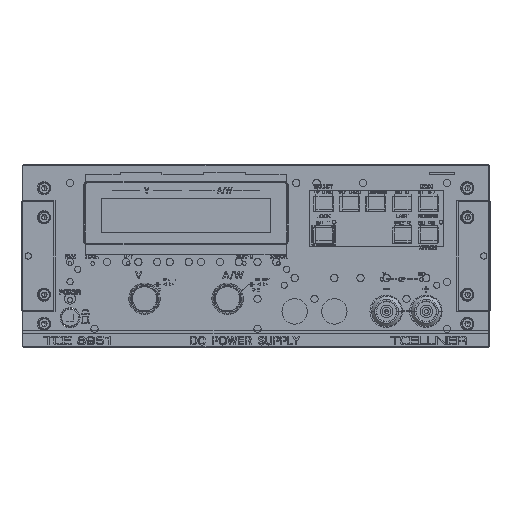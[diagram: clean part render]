
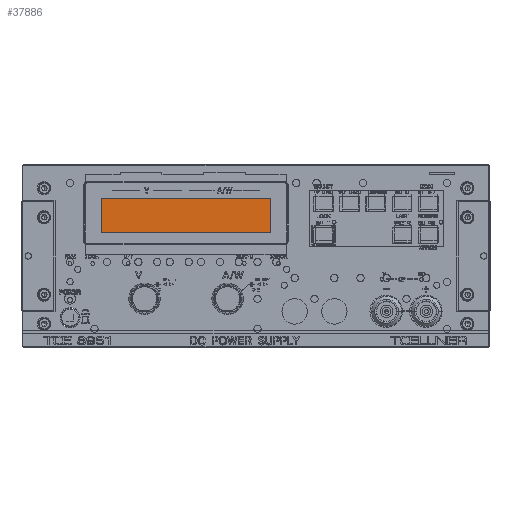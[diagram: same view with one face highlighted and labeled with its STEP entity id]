
A CAD part, top view. The second image highlights one B-rep face of the part: STEP entity #37886.
In plain terms, the highlighted planar face has unit normal (0, 0, 1).
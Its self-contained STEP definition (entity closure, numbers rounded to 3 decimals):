
#946 = VERTEX_POINT ( 'NONE', #55966 ) ;
#3045 = AXIS2_PLACEMENT_3D ( 'NONE', #20883, #68675, #28923 ) ;
#7830 = CARTESIAN_POINT ( 'NONE',  ( -48.788, 18.325, 620.451 ) ) ;
#7903 = LINE ( 'NONE', #77500, #89441 ) ;
#10036 = ORIENTED_EDGE ( 'NONE', *, *, #36052, .T. ) ;
#10726 = CARTESIAN_POINT ( 'NONE',  ( -90.288, 36.925, 620.451 ) ) ;
#19759 = ORIENTED_EDGE ( 'NONE', *, *, #61607, .T. ) ;
#20883 = CARTESIAN_POINT ( 'NONE',  ( -48.788, 27.625, 620.451 ) ) ;
#22675 = VECTOR ( 'NONE', #44821, 1000. ) ;
#23749 = DIRECTION ( 'NONE',  ( 0., 1., 0. ) ) ;
#28923 = DIRECTION ( 'NONE',  ( 1., 0., 0. ) ) ;
#30898 = FACE_OUTER_BOUND ( 'NONE', #102592, .T. ) ;
#36052 = EDGE_CURVE ( 'NONE', #55488, #41028, #62713, .T. ) ;
#37886 = ADVANCED_FACE ( 'NONE', ( #30898 ), #82650, .T. ) ;
#37893 = ORIENTED_EDGE ( 'NONE', *, *, #44605, .T. ) ;
#39180 = VERTEX_POINT ( 'NONE', #80423 ) ;
#41028 = VERTEX_POINT ( 'NONE', #102191 ) ;
#44605 = EDGE_CURVE ( 'NONE', #946, #55488, #103876, .T. ) ;
#44821 = DIRECTION ( 'NONE',  ( 0., -1., 0. ) ) ;
#55488 = VERTEX_POINT ( 'NONE', #10726 ) ;
#55966 = CARTESIAN_POINT ( 'NONE',  ( -7.288, 36.925, 620.451 ) ) ;
#57857 = VECTOR ( 'NONE', #77431, 1000. ) ;
#61607 = EDGE_CURVE ( 'NONE', #41028, #39180, #87440, .T. ) ;
#62713 = LINE ( 'NONE', #68634, #22675 ) ;
#68634 = CARTESIAN_POINT ( 'NONE',  ( -90.288, 27.625, 620.451 ) ) ;
#68675 = DIRECTION ( 'NONE',  ( 0., 0., 1. ) ) ;
#77431 = DIRECTION ( 'NONE',  ( 1., 0., 0. ) ) ;
#77500 = CARTESIAN_POINT ( 'NONE',  ( -7.288, 27.625, 620.451 ) ) ;
#80423 = CARTESIAN_POINT ( 'NONE',  ( -7.288, 18.325, 620.451 ) ) ;
#82650 = PLANE ( 'NONE',  #3045 ) ;
#87440 = LINE ( 'NONE', #7830, #57857 ) ;
#89441 = VECTOR ( 'NONE', #23749, 1000. ) ;
#91956 = DIRECTION ( 'NONE',  ( -1., 0., 0. ) ) ;
#95591 = VECTOR ( 'NONE', #91956, 1000. ) ;
#97368 = EDGE_CURVE ( 'NONE', #39180, #946, #7903, .T. ) ;
#100746 = ORIENTED_EDGE ( 'NONE', *, *, #97368, .T. ) ;
#102191 = CARTESIAN_POINT ( 'NONE',  ( -90.288, 18.325, 620.451 ) ) ;
#102592 = EDGE_LOOP ( 'NONE', ( #10036, #19759, #100746, #37893 ) ) ;
#103876 = LINE ( 'NONE', #115749, #95591 ) ;
#115749 = CARTESIAN_POINT ( 'NONE',  ( -48.788, 36.925, 620.451 ) ) ;
